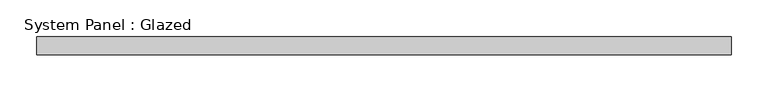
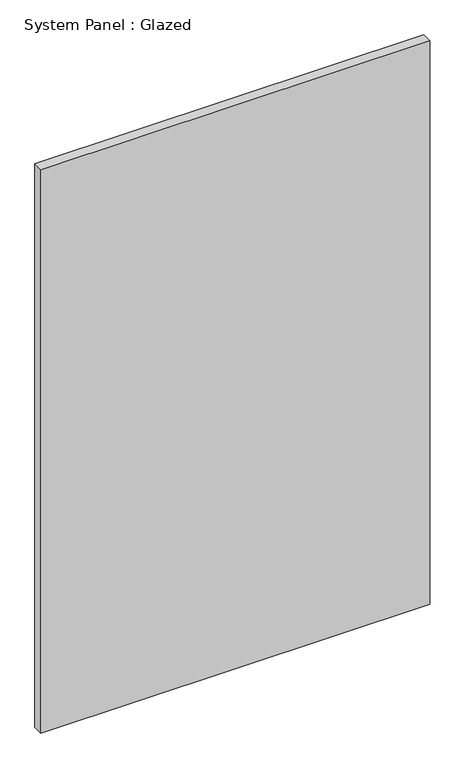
"""IFC4 building model written with IfcOpenShell, lengths in millimetres: plate geometry, System Panel : Glazed."""

from ifc_helpers import new_model, si_unit, origin, origin_with_axes, place, context, project, spatial, polyline, outline, extrude, source, transform, mapped, element, save


def system_panel_glazed_24c71900(model_context):
    return source(origin(), model_context, "Body", "SweptSolid", [
        extrude(outline(polyline([(475.0, -49.5), (-475.0, -49.5), (-475.0, -24.5), (475.0, -24.5), (475.0, -49.5)])), origin_with_axes(), (0.0, 0.0, 1.0), 1455.2574105),
    ])


if __name__ == "__main__":
    model = new_model("IFC4")
    model_context = context("Model", 3, world=origin())
    ifc_project = project(units=[si_unit("LENGTHUNIT", "METRE", prefix="MILLI")], contexts=[model_context])
    site = spatial("IfcSite", under=ifc_project)
    building = spatial("IfcBuilding", under=site)
    placement = place(None, origin())
    system_panel_glazed_shape = system_panel_glazed_24c71900(model_context)
    element("IfcPlate", 1, ObjectType="System Panel : Glazed", at=placement, inside=building, context=model_context, shape_type="MappedRepresentation", body=[
        mapped(system_panel_glazed_shape, transform((0.0, 0.0, 0.0), x_axis=(1.0, 0.0, 0.0), y_axis=(0.0, 1.0, 0.0), z_axis=(0.0, 0.0, 1.0))),
    ])
    save(model, "model.ifc")
